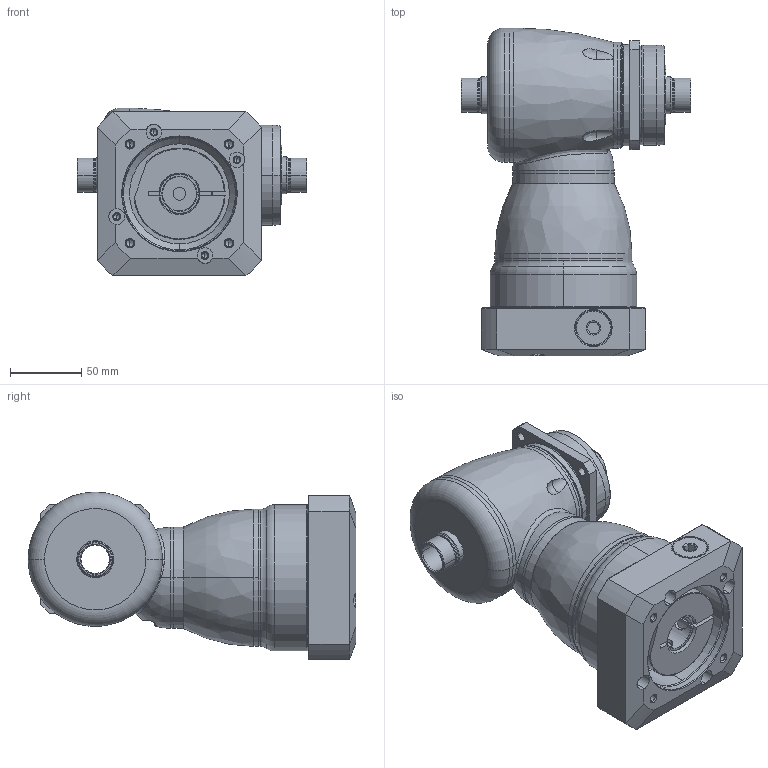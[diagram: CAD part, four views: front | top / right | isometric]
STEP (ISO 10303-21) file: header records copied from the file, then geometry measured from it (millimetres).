
FILE_DESCRIPTION((''),'2;1');
FILE_NAME('KF075_S4_1ST_24-P0409500101_ASM','2016-07-15T',('d01943'),(''),'PRO/ENGINEER BY PARAMETRIC TECHNOLOGY CORPORATION, 2008410','PRO/ENGINEER BY PARAMETRIC TECHNOLOGY CORPORATION, 2008410','');
FILE_SCHEMA(('CONFIG_CONTROL_DESIGN'));
Length unit declared in the file: millimetre
Products named in the file (11): P1008300002; P1804300001; P0914300001; P1315300001; P1007300001; P1318300301; P0409500101; P0503500010; P0912303001; 21711418017; KF075_S4_1ST_24-P0409500101_ASM
Assembly tree (10 placements, depth 2):
  KF075_S4_1ST_24-P0409500101_ASM
    P1008300002
    P1804300001
    P0914300001
    P1315300001
    P1007300001
    P1318300301
    P0409500101
    P0503500010
    P0912303001
    21711418017
Bounding box: 161 x 229.5 x 117.5 mm (x, y, z)
Volume: 1449561.5 mm3; surface area: 263999.9 mm2
Topology: 11 solids, 11 shells, 529 faces, 1227 edges, 733 vertices
Faces by surface type: cylinder 185, cone 130, plane 93, torus 72, bspline 47, sphere 2
Entity records: 23064 total; most frequent: CARTESIAN_POINT 10954, DIRECTION 2636, ORIENTED_EDGE 2394, EDGE_CURVE 1197, AXIS2_PLACEMENT_3D 1124, VERTEX_POINT 727, CIRCLE 621, EDGE_LOOP 604
